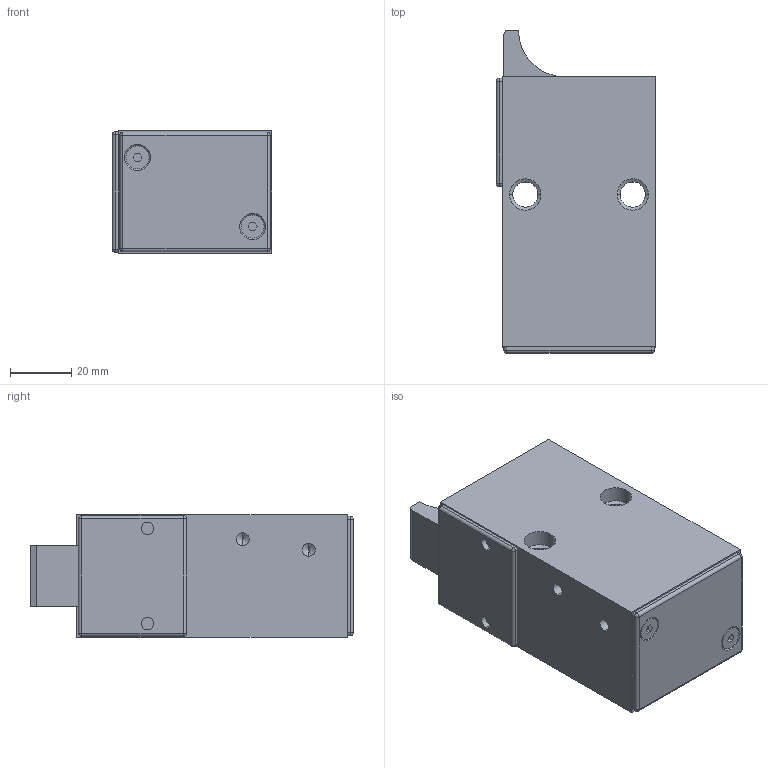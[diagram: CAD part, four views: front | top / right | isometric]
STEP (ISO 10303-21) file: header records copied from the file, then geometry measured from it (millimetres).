
FILE_DESCRIPTION (( 'STEP AP203' ), '1' );
FILE_NAME ('D0400-15-DW-H.STEP', '2011-12-15T10:28:52', ( 'test' ), ( '' ), 'SwSTEP 2.0', 'SolidWorks 2010', '' );
FILE_SCHEMA (( 'CONFIG_CONTROL_DESIGN' ));
Length unit declared in the file: millimetre
Products named in the file (1): D0400-15-DW-H
Bounding box: 52 x 105 x 40 mm (x, y, z)
Volume: 175335.9 mm3; surface area: 28425.4 mm2
Topology: 1 solids, 1 shells, 130 faces, 308 edges, 174 vertices
Faces by surface type: cylinder 53, plane 45, cone 24, sphere 8
Entity records: 3635 total; most frequent: DIRECTION 660, CARTESIAN_POINT 593, ORIENTED_EDGE 576, EDGE_CURVE 288, AXIS2_PLACEMENT_3D 241, VECTOR 178, LINE 178, VERTEX_POINT 174
